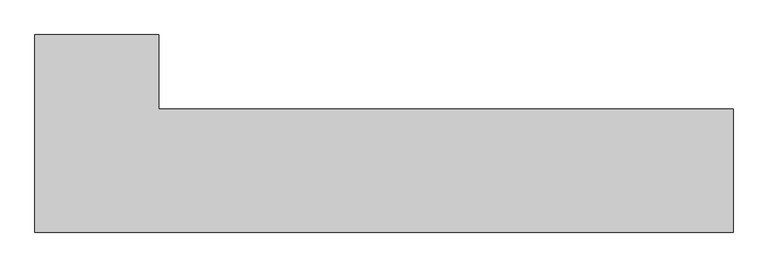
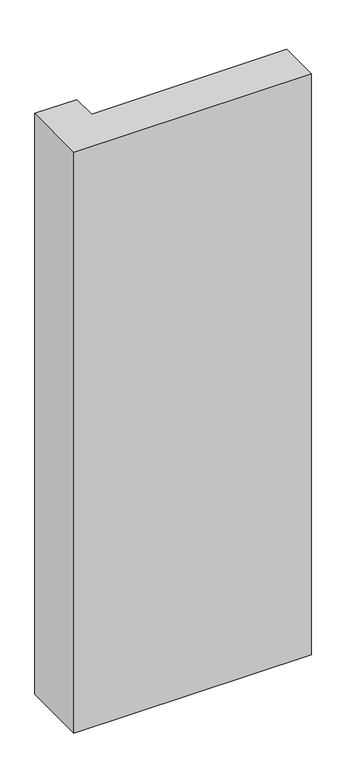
"""IFC4 building model written with IfcOpenShell, lengths in millimetres: column geometry, Columna Estructural Ele : ECO_Ele 40x141x25."""

from ifc_helpers import new_model, si_unit, frame, origin, place, context, project, spatial, polyline, outline, extrude, source, transform, mapped, element, save


def column_29ed4d3a(model_context):
    return source(origin(), model_context, "Body", "SweptSolid", [
        extrude(outline(polyline([(125.0, 275.0), (125.0, 125.0), (1285.0, 125.0), (1285.0, -125.0), (-125.0, -125.0), (-125.0, 275.0), (125.0, 275.0)])), frame((0.0, 0.0, -900.0), z_axis=(0.0, 0.0, 1.0), x_axis=(1.0, 0.0, 0.0)), (0.0, 0.0, 1.0), 3650.0),
    ])


if __name__ == "__main__":
    model = new_model("IFC4")
    model_context = context("Model", 3, world=origin())
    ifc_project = project(units=[si_unit("LENGTHUNIT", "METRE", prefix="MILLI")], contexts=[model_context])
    site = spatial("IfcSite", under=ifc_project)
    building = spatial("IfcBuilding", under=site)
    placement = place(None, origin())
    column_shape = column_29ed4d3a(model_context)
    element("IfcColumn", 1, ObjectType="Columna Estructural Ele : ECO_Ele 40x141x25", at=placement, inside=building, context=model_context, shape_type="MappedRepresentation", body=[
        mapped(column_shape, transform((0.0, 0.0, 0.0), x_axis=(1.0, 0.0, 0.0), y_axis=(0.0, 1.0, 0.0), z_axis=(0.0, 0.0, 1.0))),
    ])
    save(model, "model.ifc")
